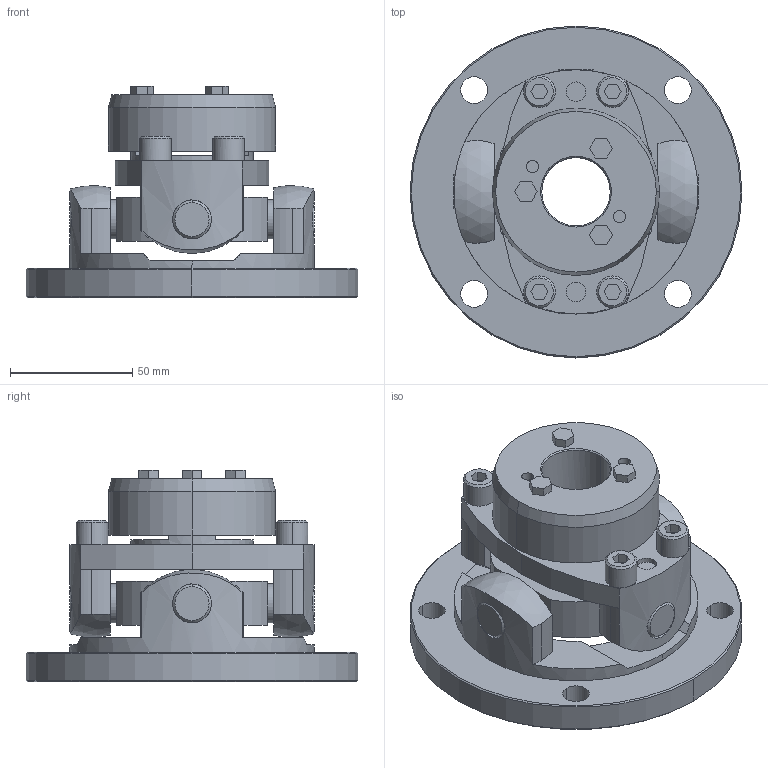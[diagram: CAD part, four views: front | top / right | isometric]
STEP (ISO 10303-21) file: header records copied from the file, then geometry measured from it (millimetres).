
FILE_DESCRIPTION((''),'2;1');
FILE_NAME('UCNF-100T7-28.stp','2015-11-01T20:45:27',(''),(''),'AutoCAD STEP 2000i','AutoCAD 2000i',', , ');
FILE_SCHEMA(('CONFIG_CONTROL_DESIGN'));
Length unit declared in the file: millimetre
Products named in the file (9): UCNF-100T7-28; 忣兜1; UCN100T7-T028; UCN100T7-T030; UCN100T7-T025; UCNF-10002; UCN100T7-T022-1; UCN100T7-T022; UCN100-SEN
Assembly tree (8 placements, depth 2):
  UCNF-100T7-28
    忣兜1
    UCN100T7-T028
    UCN100T7-T030
    UCN100T7-T025
    UCNF-10002
    UCN100T7-T022-1
    UCN100T7-T022
    UCN100-SEN
Bounding box: 136 x 136 x 86.5 mm (x, y, z)
Volume: 382958.3 mm3; surface area: 85835 mm2
Topology: 1 solids, 1 shells, 275 faces, 688 edges, 448 vertices
Faces by surface type: plane 129, cylinder 104, cone 38, sphere 4
Entity records: 8905 total; most frequent: CARTESIAN_POINT 1824, DIRECTION 1538, ORIENTED_EDGE 1376, EDGE_CURVE 688, AXIS2_PLACEMENT_3D 582, VERTEX_POINT 448, VECTOR 374, LINE 374
